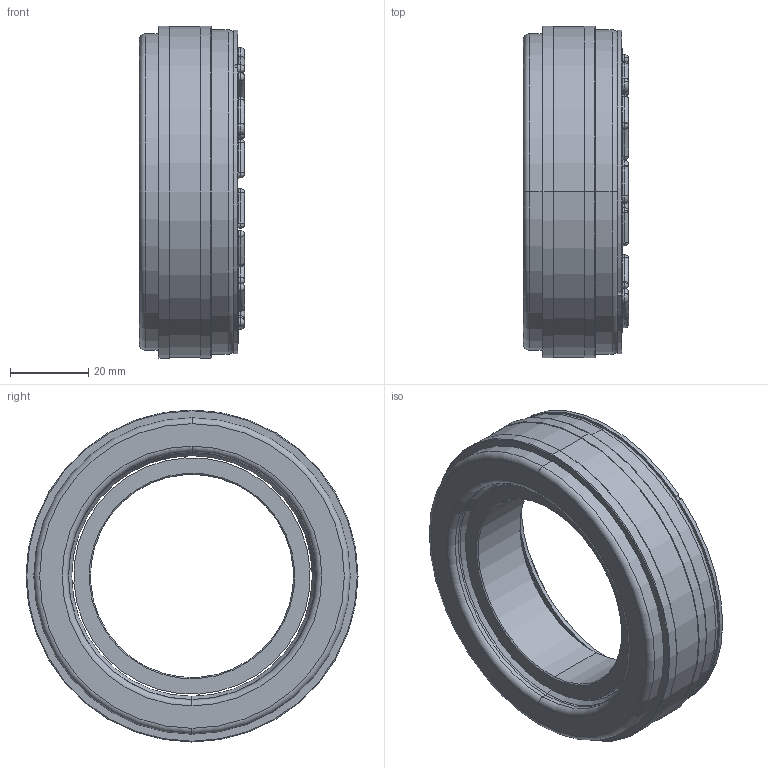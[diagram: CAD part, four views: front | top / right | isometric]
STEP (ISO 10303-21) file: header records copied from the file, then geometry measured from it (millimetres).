
FILE_DESCRIPTION (( 'STEP AP214' ), '1' );
FILE_NAME ('E-00107664.02.step', '2019-10-29T09:37:09', ( 'Admin' ), ( 'Microsoft' ), 'SwSTEP 2.0', 'SolidWorks 2018', '' );
FILE_SCHEMA (( 'AUTOMOTIVE_DESIGN' ));
Length unit declared in the file: millimetre
Products named in the file (4): E-00008197; E-00008387; E-00106191; E-00107664.02
Assembly tree (3 placements, depth 2):
  E-00107664.02
    E-00106191
    E-00008387
    E-00008197
Bounding box: 26.9 x 85 x 85 mm (x, y, z)
Volume: 73309.5 mm3; surface area: 28653.6 mm2
Topology: 3 solids, 3 shells, 1195 faces, 2621 edges, 1711 vertices
Faces by surface type: cylinder 613, plane 486, torus 88, cone 8
Entity records: 44479 total; most frequent: DIRECTION 6498, CARTESIAN_POINT 5533, ORIENTED_EDGE 5242, AXIS2_PLACEMENT_3D 2676, EDGE_CURVE 2621, VERTEX_POINT 1711, EDGE_LOOP 1486, CIRCLE 1475
